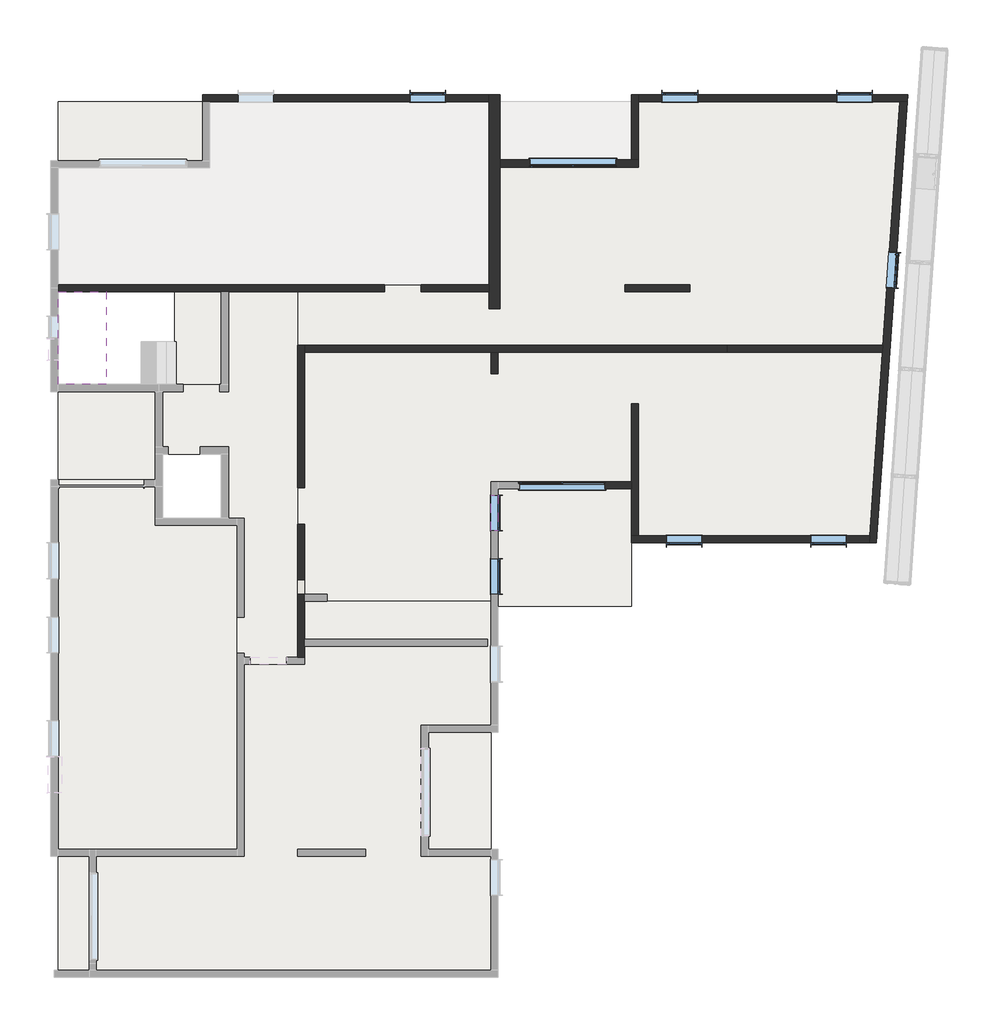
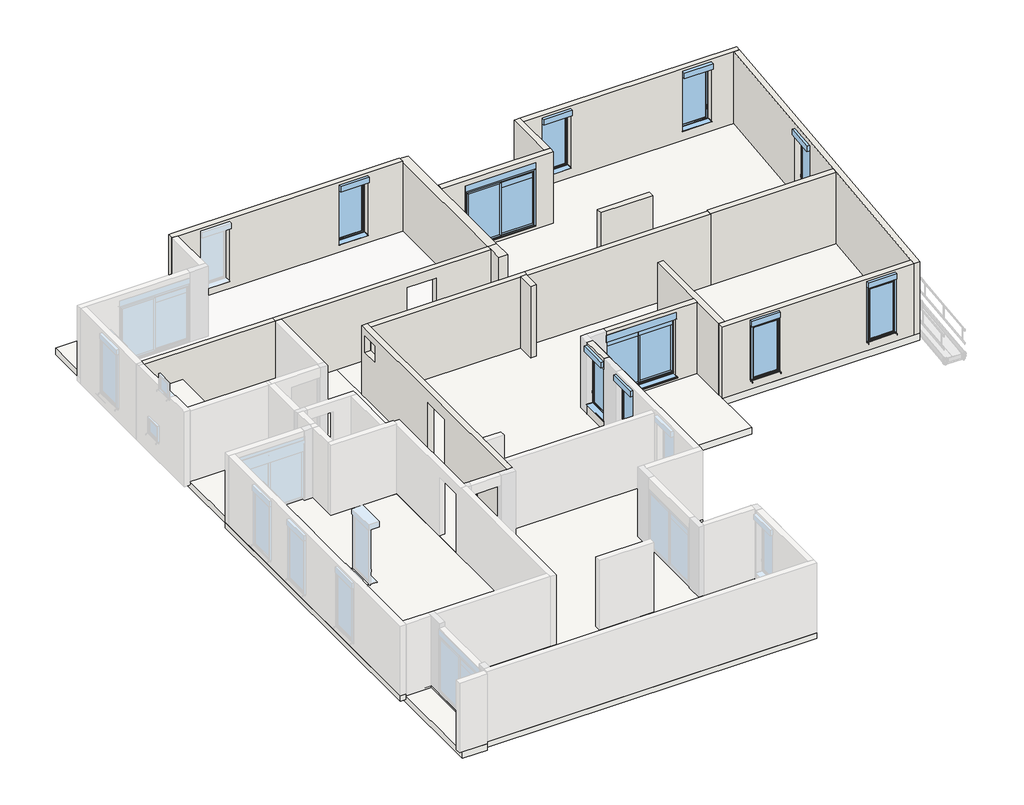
# One storey, part 2 of 3: 17 walls, 10 slabs, 10 windows.
"""IFC4 building model written with IfcOpenShell, lengths in millimetres."""

from ifc_helpers import new_model, si_unit, frame, origin, place, context, project, spatial, polyline, outline, extrude, faceted_brep, transform, mapped, element, save
from components import window_b85a0a24, window_200x100_8459d8a5, window_200x100_a15cc3b6

model = new_model("IFC4")

# Units and contexts
model_context = context("Model", 3, world=origin())
ifc_project = project(units=[si_unit("LENGTHUNIT", "METRE", prefix="MILLI")], contexts=[model_context])

# Site, building, storey
site = spatial("IfcSite", under=ifc_project)
building = spatial("IfcBuilding", under=site)
storey = spatial("IfcBuildingStorey", under=building, Name="04-Plateau 4", Elevation=6400.0)

# Slabs
placement = place(None, origin())
element("IfcSlab", 1, ObjectType="Plancher Coulé en place 20 cm", at=placement, inside=storey, context=model_context, shape_type="Brep", body=[
    faceted_brep([(-6107.0447796, -2340.1377724, 6770.0), (-6107.0447796, 8209.8622276, 6770.0), (-3487.0447796, 8209.8622276, 6770.0), (-3177.0447796, 8209.8622276, 6770.0), (-3177.0447796, 8009.8622276, 6770.0), (-3177.0447796, 7129.8622276, 6770.0), (-1072.0447796, 7129.8622276, 6770.0), (-1072.0447796, 6929.8622276, 6770.0), (-887.0447796, 6929.8622276, 6770.0), (-887.0447796, 3039.8622276, 6770.0), (1012.9552204, 3039.8622276, 6770.0), (1012.9552204, 3539.8622276, 6770.0), (1012.9552204, 3739.8622276, 6770.0), (1012.9552204, 4799.8622276, 6770.0), (6432.9552204, 4799.8622276, 6770.0), (6432.9552204, 1129.8622276, 6770.0), (4478.3552204, 1129.8622276, 6770.0), (4478.3552204, 677.5337635, 6770.0), (4478.3552204, -1770.1377724, 6770.0), (4478.3552204, -2140.1377724, 6770.0), (6233.3552204, -2140.1377724, 6770.0), (6432.9552204, -2140.1377724, 6770.0), (6432.9552204, -2440.1377724, 6770.0), (6432.9552204, -5740.1377724, 6770.0), (-5037.0447796, -5740.1377724, 6770.0), (-5037.0447796, -5540.1377724, 6770.0), (-5037.0447796, -5240.1377724, 6770.0), (-5037.0447796, -2820.1377724, 6770.0), (-5037.0447796, -2340.1377724, 6770.0), (-6107.0447796, -2340.1377724, 6970.0), (-5037.0447796, -2340.1377724, 6970.0), (-5037.0447796, -2820.1377724, 6970.0), (-5037.0447796, -5240.1377724, 6970.0), (-5037.0447796, -5540.1377724, 6970.0), (-5037.0447796, -5740.1377724, 6970.0), (6432.9552204, -5740.1377724, 6970.0), (6432.9552204, -2440.1377724, 6970.0), (6432.9552204, -2140.1377724, 6970.0), (6233.3552204, -2140.1377724, 6970.0), (4478.3552204, -2140.1377724, 6970.0), (4478.3552204, -1770.1377724, 6970.0), (4478.3552204, 649.8622276, 6970.0), (4478.3552204, 1129.8622276, 6970.0), (6432.9552204, 1129.8622276, 6970.0), (6432.9552204, 4799.8622276, 6970.0), (1012.9552204, 4799.8622276, 6970.0), (1012.9552204, 3039.8622276, 6970.0), (-887.0447796, 3039.8622276, 6970.0), (-887.0447796, 6929.8622276, 6970.0), (-1072.0447796, 6929.8622276, 6970.0), (-1072.0447796, 7129.8622276, 6970.0), (-2977.0447796, 7129.8622276, 6970.0), (-3177.0447796, 7129.8622276, 6970.0), (-3177.0447796, 8009.8622276, 6970.0), (-3177.0447796, 8109.8622276, 6970.0), (-3177.0447796, 8209.8622276, 6970.0), (-3487.0447796, 8209.8622276, 6970.0), (-6107.0447796, 8209.8622276, 6970.0), (-5037.0447796, -2340.1377724, 6900.0)], [[[0, 1, 2, 3, 4, 5, 6, 7, 8, 9, 10, 11, 12, 13, 14, 15, 16, 17, 18, 19, 20, 21, 22, 23, 24, 25, 26, 27, 28]], [[29, 30, 31, 32, 33, 34, 35, 36, 37, 38, 39, 40, 41, 42, 43, 44, 45, 46, 47, 48, 49, 50, 51, 52, 53, 54, 55, 56, 57]], [[1, 0, 29, 57]], [[3, 2, 1, 57, 56, 55]], [[5, 4, 3, 55, 54, 53, 52]], [[6, 5, 52, 51, 50]], [[7, 6, 50, 49]], [[8, 7, 49, 48]], [[9, 8, 48, 47]], [[10, 9, 47, 46]], [[13, 12, 11, 10, 46, 45]], [[14, 13, 45, 44]], [[15, 14, 44, 43]], [[16, 15, 43, 42]], [[19, 18, 17, 16, 42, 41, 40, 39]], [[21, 20, 19, 39, 38, 37]], [[23, 22, 21, 37, 36, 35]], [[24, 23, 35, 34]], [[28, 27, 26, 25, 24, 34, 33, 32, 31, 30, 58]], [[0, 28, 58, 30, 29]]]),
])
element("IfcSlab", 2, ObjectType="Plancher Coulé en place 23 cm", at=placement, inside=storey, context=model_context, shape_type="Brep", body=[
    faceted_brep([(812.9552204, 11199.8622276, 6740.0), (812.9552204, 4599.8622276, 6740.0), (1012.9552204, 4599.8622276, 6740.0), (1012.9552204, 3239.8622276, 6740.0), (1012.9552204, 3039.8622276, 6740.0), (507.9552204, 3039.8622276, 6740.0), (-512.0447796, 3039.8622276, 6740.0), (-687.0447796, 3039.8622276, 6740.0), (-887.0447796, 3039.8622276, 6740.0), (-887.0447796, 3339.8622276, 6740.0), (-887.0447796, 6929.8622276, 6740.0), (-1072.0447796, 6929.8622276, 6740.0), (-1072.0447796, 7129.8622276, 6740.0), (-1327.0447796, 7129.8622276, 6740.0), (-1327.0447796, 8929.8622276, 6740.0), (-2817.0447796, 8929.8622276, 6740.0), (-3177.0447796, 8929.8622276, 6740.0), (-3177.0447796, 9129.8622276, 6740.0), (-3177.0447796, 10879.8622276, 6740.0), (-1377.0447796, 10879.8622276, 6740.0), (-1327.0447796, 10879.8622276, 6740.0), (-1327.0447796, 13679.8622276, 6740.0), (508.9552204, 13679.8622276, 6740.0), (812.9552204, 13679.8622276, 6740.0), (812.9552204, 13479.8622276, 6740.0), (812.9552204, 11199.8622276, 6970.0), (812.9552204, 13679.8622276, 6970.0), (-1327.0447796, 13679.8622276, 6970.0), (-1327.0447796, 10879.8622276, 6970.0), (-1377.0447796, 10879.8622276, 6970.0), (-3177.0447796, 10879.8622276, 6970.0), (-3177.0447796, 9129.8622276, 6970.0), (-3177.0447796, 8929.8622276, 6970.0), (-2817.0447796, 8929.8622276, 6970.0), (-1327.0447796, 8929.8622276, 6970.0), (-1327.0447796, 7129.8622276, 6970.0), (-1072.0447796, 7129.8622276, 6970.0), (-1072.0447796, 6929.8622276, 6970.0), (-887.0447796, 6929.8622276, 6970.0), (-887.0447796, 3339.8622276, 6970.0), (-887.0447796, 3039.8622276, 6970.0), (-687.0447796, 3039.8622276, 6970.0), (-512.0447796, 3039.8622276, 6970.0), (507.9552204, 3039.8622276, 6970.0), (1012.9552204, 3039.8622276, 6970.0), (1012.9552204, 3239.8622276, 6970.0), (1012.9552204, 4599.8622276, 6970.0), (812.9552204, 4599.8622276, 6970.0)], [[[0, 1, 2, 3, 4, 5, 6, 7, 8, 9, 10, 11, 12, 13, 14, 15, 16, 17, 18, 19, 20, 21, 22, 23, 24]], [[25, 26, 27, 28, 29, 30, 31, 32, 33, 34, 35, 36, 37, 38, 39, 40, 41, 42, 43, 44, 45, 46, 47]], [[1, 0, 25, 47]], [[2, 1, 47, 46]], [[4, 3, 2, 46, 45, 44]], [[6, 5, 4, 44, 43, 42]], [[8, 7, 6, 42, 41, 40]], [[9, 8, 40, 39]], [[10, 9, 39, 38]], [[11, 10, 38, 37]], [[12, 11, 37, 36]], [[13, 12, 36, 35]], [[14, 13, 35, 34]], [[16, 15, 14, 34, 33, 32]], [[18, 17, 16, 32, 31, 30]], [[20, 19, 18, 30, 29, 28]], [[21, 20, 28, 27]], [[23, 22, 21, 27, 26]], [[0, 24, 23, 26, 25]]]),
])
element("IfcSlab", 3, ObjectType="Plancher Coulé en place 24 cm", at=placement, inside=storey, context=model_context, shape_type="Brep", body=[
    faceted_brep([(-5037.0447796, -2640.1377724, 6660.0), (-5037.0447796, -5740.1377724, 6660.0), (-5907.0447796, -5740.1377724, 6660.0), (-5907.0447796, -5540.1377724, 6660.0), (-5907.0447796, -2140.1377724, 6660.0), (-5037.0447796, -2140.1377724, 6660.0), (-5037.0447796, -2640.1377724, 6900.0), (-5037.0447796, -2140.1377724, 6900.0), (-5907.0447796, -2140.1377724, 6900.0), (-5907.0447796, -5540.1377724, 6900.0), (-5907.0447796, -5740.1377724, 6900.0), (-5037.0447796, -5740.1377724, 6900.0), (-5037.0447796, -2140.1377724, 6770.0)], [[[0, 1, 2, 3, 4, 5]], [[6, 7, 8, 9, 10, 11]], [[1, 0, 6, 11]], [[2, 1, 11, 10]], [[4, 3, 2, 10, 9, 8]], [[5, 4, 8, 7, 12]], [[0, 5, 12, 7, 6]]]),
])
element("IfcSlab", 4, ObjectType="Plancher Coulé en place 24 cm", at=placement, inside=storey, context=model_context, shape_type="Brep", body=[
    faceted_brep([(-3177.0447796, 8209.8622276, 6660.0), (-5907.0447796, 8209.8622276, 6660.0), (-5907.0447796, 10879.8622276, 6660.0), (-3177.0447796, 10879.8622276, 6660.0), (-3177.0447796, 8209.8622276, 6900.0), (-3177.0447796, 10879.8622276, 6900.0), (-5907.0447796, 10879.8622276, 6900.0), (-5907.0447796, 8209.8622276, 6900.0), (-3177.0447796, 8209.8622276, 6770.0)], [[[0, 1, 2, 3]], [[4, 5, 6, 7]], [[0, 3, 5, 4, 8]], [[1, 0, 8, 4, 7]], [[2, 1, 7, 6]], [[3, 2, 6, 5]]]),
])
element("IfcSlab", 5, ObjectType="Plancher Coulé en place 24 cm", at=placement, inside=storey, context=model_context, shape_type="SweptSolid", body=[
    extrude(outline(polyline([(6232.9552204, 759.8622276), (6232.9552204, -2140.1377724), (4478.3552204, -2140.1377724), (4478.3552204, 1129.8622276), (6232.9552204, 1129.8622276), (6232.9552204, 759.8622276)])), frame((0.0, 0.0, 6660.0), z_axis=(0.0, 0.0, 1.0), x_axis=(1.0, 0.0, 0.0)), (0.0, 0.0, 1.0), 240.0),
])
element("IfcSlab", 6, ObjectType="Plancher Coulé en place 24 cm", at=placement, inside=storey, context=model_context, shape_type="SweptSolid", body=[
    extrude(outline(polyline([(-1857.0447796, 18799.8622276), (-1857.0447796, 17149.8622276), (-5907.0447796, 17149.8622276), (-5907.0447796, 18799.8622276), (-1857.0447796, 18799.8622276)])), frame((0.0, 0.0, 6660.0), z_axis=(0.0, 0.0, 1.0), x_axis=(1.0, 0.0, 0.0)), (0.0, 0.0, 1.0), 240.0),
])
element("IfcSlab", 7, ObjectType="Plancher Coulé en place 25 cm", at=placement, inside=storey, context=model_context, shape_type="Brep", body=[
    faceted_brep([(6232.9552204, 4799.8622276, 6650.0), (812.9552204, 4799.8622276, 6650.0), (812.9552204, 11199.8622276, 6650.0), (812.9552204, 11399.8622276, 6650.0), (812.9552204, 12399.8622276, 6650.0), (812.9552204, 12599.8622276, 6650.0), (812.9552204, 13479.8622276, 6650.0), (812.9552204, 13679.8622276, 6650.0), (1008.9552204, 13679.8622276, 6650.0), (6182.9552204, 13679.8622276, 6650.0), (6182.9552204, 17174.8622276, 6650.0), (6182.9552204, 18799.8622276, 6650.0), (6482.9552204, 18799.8622276, 6650.0), (6482.9552204, 17174.8622276, 6650.0), (10172.9552204, 17174.8622276, 6650.0), (10172.9552204, 18999.8622276, 6650.0), (10272.9552204, 18999.8622276, 6650.0), (17919.8015255, 18999.8622276, 6650.0), (17041.777301, 6443.530828, 6650.0), (10173.5257924, 6443.530828, 6650.0), (10173.5257924, 7959.8622276, 6650.0), (7032.9552204, 7959.8622276, 6650.0), (6432.9552204, 7959.8622276, 6650.0), (6432.9552204, 7779.8622276, 6650.0), (6432.9552204, 6779.8622276, 6650.0), (6432.9552204, 5999.8622276, 6650.0), (6432.9552204, 4570.830828, 6650.0), (6432.9552204, 4470.830828, 6650.0), (6232.9552204, 4470.830828, 6650.0), (6232.9552204, 4799.8622276, 6900.0), (6232.9552204, 4470.830828, 6900.0), (6432.9552204, 4470.830828, 6900.0), (6432.9552204, 4570.830828, 6900.0), (6432.9552204, 5999.8622276, 6900.0), (6432.9552204, 6779.8622276, 6900.0), (6432.9552204, 7779.8622276, 6900.0), (6432.9552204, 7959.8622276, 6900.0), (7032.9552204, 7959.8622276, 6900.0), (10173.5257924, 7959.8622276, 6900.0), (10173.5257924, 7809.8622276, 6900.0), (10173.5257924, 7309.8622276, 6900.0), (10173.5257924, 6443.530828, 6900.0), (17041.777301, 6443.530828, 6900.0), (17919.8015255, 18999.8622276, 6900.0), (10272.9552204, 18999.8622276, 6900.0), (10172.9552204, 18999.8622276, 6900.0), (10172.9552204, 17174.8622276, 6900.0), (6482.9552204, 17174.8622276, 6900.0), (6482.9552204, 18799.8622276, 6900.0), (6182.9552204, 18799.8622276, 6900.0), (6182.9552204, 17174.8622276, 6900.0), (6182.9552204, 13679.8622276, 6900.0), (812.9552204, 13679.8622276, 6900.0), (812.9552204, 4799.8622276, 6900.0), (812.9552204, 13679.8622276, 6740.0)], [[[0, 1, 2, 3, 4, 5, 6, 7, 8, 9, 10, 11, 12, 13, 14, 15, 16, 17, 18, 19, 20, 21, 22, 23, 24, 25, 26, 27, 28]], [[29, 30, 31, 32, 33, 34, 35, 36, 37, 38, 39, 40, 41, 42, 43, 44, 45, 46, 47, 48, 49, 50, 51, 52, 53]], [[1, 0, 29, 53]], [[7, 6, 5, 4, 3, 2, 1, 53, 52, 54]], [[9, 8, 7, 54, 52, 51]], [[10, 9, 51, 50]], [[14, 13, 47, 46]], [[15, 14, 46, 45]], [[16, 15, 45, 44]], [[17, 16, 44, 43]], [[18, 17, 43, 42]], [[19, 18, 42, 41]], [[20, 19, 41, 40, 39, 38]], [[22, 21, 20, 38, 37, 36]], [[26, 25, 24, 23, 22, 36, 35, 34, 33, 32]], [[27, 26, 32, 31]], [[28, 27, 31, 30]], [[0, 28, 30, 29]], [[11, 10, 50, 49]], [[12, 11, 49, 48]], [[13, 12, 48, 47]]]),
])
element("IfcSlab", 8, ObjectType="Plancher Coulé en place 24 cm", at=placement, inside=storey, context=model_context, shape_type="Brep", body=[
    faceted_brep([(10172.9552204, 7959.8622276, 6660.0), (10172.9552204, 7809.8622276, 6660.0), (10172.9552204, 7309.8622276, 6660.0), (10172.9552204, 4670.830828, 6660.0), (6432.9552204, 4670.830828, 6660.0), (6432.9552204, 7959.8622276, 6660.0), (10172.9552204, 7959.8622276, 6900.0), (6432.9552204, 7959.8622276, 6900.0), (6432.9552204, 4670.830828, 6900.0), (10172.9552204, 4670.830828, 6900.0), (10172.9552204, 7309.8622276, 6900.0), (10172.9552204, 7809.8622276, 6900.0)], [[[0, 1, 2, 3, 4, 5]], [[6, 7, 8, 9, 10, 11]], [[3, 2, 1, 0, 6, 11, 10, 9]], [[4, 3, 9, 8]], [[5, 4, 8, 7]], [[0, 5, 7, 6]]]),
])
element("IfcSlab", 9, ObjectType="Plancher Coulé en place 20 cm", at=placement, inside=storey, context=model_context, shape_type="SweptSolid", body=[
    extrude(outline(polyline([(-1327.0447796, 10879.8622276), (-2628.7510491, 10879.8622276), (-2628.7510491, 13479.8622276), (-1327.0447796, 13479.8622276), (-1327.0447796, 10879.8622276)])), frame((0.0, 0.0, 6840.0), z_axis=(0.0, 0.0, 1.0), x_axis=(1.0, 0.0, 0.0)), (0.0, 0.0, 1.0), 200.0),
])
element("IfcSlab", 10, ObjectType="Plancher Coulé en place 18 cm", at=placement, inside=storey, context=model_context, shape_type="SweptSolid", body=[
    extrude(outline(polyline([(-5907.0447796, 10879.8622276), (-5907.0447796, 13479.8622276), (-4550.4151884, 13479.8622276), (-4550.4151884, 10879.8622276), (-5907.0447796, 10879.8622276)])), frame((0.0, 0.0, 8310.0), z_axis=(0.0, 0.0, 1.0), x_axis=(1.0, 0.0, 0.0)), (0.0, 0.0, 1.0), 180.0),
])

# Walls
element("IfcWall", 11, ObjectType="Voile Banché 20 cm", at=placement, inside=storey, context=model_context, shape_type="Brep", body=[
    faceted_brep([(10172.9552204, 18999.8622276, 6900.0), (10172.9552204, 17174.8622276, 6900.0), (10172.9552204, 17174.8622276, 9540.0), (10172.9552204, 18999.8622276, 9540.0), (10172.9552204, 18999.8622276, 6990.0), (10372.9552204, 18999.8622276, 6900.0), (10372.9552204, 18999.8622276, 9540.0), (10372.9552204, 18799.8622276, 9540.0), (10372.9552204, 17174.8622276, 9540.0), (10372.9552204, 17174.8622276, 6900.0), (10372.9552204, 18799.8622276, 6900.0)], [[[0, 1, 2, 3, 4]], [[5, 6, 7, 8, 9, 10]], [[1, 0, 5, 10, 9]], [[0, 4, 3, 6, 5]], [[2, 1, 9, 8]], [[3, 2, 8, 7, 6]]]),
])
element("IfcWall", 12, ObjectType="Voile Banché 30 cm", at=placement, inside=storey, context=model_context, shape_type="Brep", body=[
    faceted_brep([(6182.9552204, 18999.8622276, 6970.0), (6182.9552204, 18799.8622276, 6970.0), (6182.9552204, 13679.8622276, 6970.0), (6182.9552204, 13479.8622276, 6970.0), (6182.9552204, 12999.8622276, 6970.0), (6182.9552204, 12999.8622276, 9510.0), (6182.9552204, 13479.8622276, 9510.0), (6182.9552204, 13679.8622276, 9510.0), (6182.9552204, 18999.8622276, 9510.0), (6482.9552204, 18999.8622276, 6970.0), (6482.9552204, 18999.8622276, 6990.0), (6482.9552204, 18999.8622276, 9510.0), (6482.9552204, 13679.8622276, 9510.0), (6482.9552204, 12999.8622276, 9510.0), (6482.9552204, 12999.8622276, 6970.0), (6482.9552204, 18799.8622276, 6970.0)], [[[0, 1, 2, 3, 4, 5, 6, 7, 8]], [[9, 10, 11, 12, 13, 14, 15]], [[4, 3, 2, 1, 0, 9, 15, 14]], [[5, 4, 14, 13]], [[0, 8, 11, 10, 9]], [[8, 7, 12, 11]], [[7, 6, 5, 13, 12]]]),
])
element("IfcWall", 13, ObjectType="Voile Banché 20 cm", at=placement, inside=storey, context=model_context, shape_type="Brep", body=[
    faceted_brep([(6482.9552204, 16974.8622276, 6900.0), (10372.9552204, 16974.8622276, 6900.0), (10372.9552204, 16974.8622276, 9540.0), (6482.9552204, 16974.8622276, 9540.0), (9762.9552204, 16974.8622276, 9340.0), (9762.9552204, 16974.8622276, 9120.0), (9762.9552204, 16974.8622276, 7040.0), (9762.9552204, 16974.8622276, 7010.0), (7302.9552204, 16974.8622276, 7010.0), (7302.9552204, 16974.8622276, 7040.0), (7302.9552204, 16974.8622276, 9120.0), (7302.9552204, 16974.8622276, 9340.0), (10372.9552204, 17174.8622276, 6900.0), (10172.9552204, 17174.8622276, 6900.0), (6482.9552204, 17174.8622276, 6900.0), (6482.9552204, 17174.8622276, 9540.0), (10172.9552204, 17174.8622276, 9540.0), (10372.9552204, 17174.8622276, 9540.0), (9762.9552204, 17174.8622276, 9090.0), (9762.9552204, 17174.8622276, 9340.0), (7302.9552204, 17174.8622276, 9340.0), (7302.9552204, 17174.8622276, 9090.0), (7332.9552204, 17174.8622276, 9090.0), (7332.9552204, 17174.8622276, 6995.0695702), (7302.9552204, 17174.8622276, 6995.0695702), (7302.9552204, 17174.8622276, 6940.0), (9762.9552204, 17174.8622276, 6940.0), (9762.9552204, 17174.8622276, 6995.0695702), (9732.9552204, 17174.8622276, 6995.0695702), (9732.9552204, 17174.8622276, 9090.0), (9742.9552204, 17024.8622276, 9100.0), (9742.9552204, 17024.8622276, 7040.0), (9762.9552204, 17024.8622276, 7040.0), (9762.9552204, 17024.8622276, 9100.0), (7322.9552204, 17024.8622276, 7040.0), (7322.9552204, 17024.8622276, 9100.0), (7302.9552204, 17024.8622276, 9100.0), (7302.9552204, 17024.8622276, 7040.0), (9762.9552204, 17034.8622276, 7040.0), (9762.9552204, 17034.8622276, 7009.2643667), (9762.9552204, 17044.8622276, 6940.0), (9762.9552204, 17034.8622276, 9090.0), (9762.9552204, 17034.8622276, 9100.0), (7302.9552204, 17034.8622276, 9100.0), (7302.9552204, 17034.8622276, 9090.0), (7302.9552204, 17044.8622276, 6940.0), (7302.9552204, 17034.8622276, 7009.2643667), (7302.9552204, 17034.8622276, 7040.0), (9732.9552204, 17034.8622276, 6940.0), (7332.9552204, 17034.8622276, 6940.0), (7332.9552204, 17034.8622276, 6950.0), (9732.9552204, 17034.8622276, 6950.0), (7332.9552204, 17044.8622276, 6940.0), (7332.9552204, 17034.8622276, 9090.0), (7332.9552204, 17034.8622276, 7009.2643667), (9732.9552204, 17044.8622276, 6940.0), (9732.9552204, 17034.8622276, 7009.2643667), (9732.9552204, 17034.8622276, 9090.0), (9742.9552204, 17034.8622276, 7040.0), (9742.9552204, 17034.8622276, 9090.0), (7322.9552204, 17034.8622276, 9090.0), (7322.9552204, 17034.8622276, 7040.0), (7322.9552204, 17034.8622276, 9100.0), (9742.9552204, 17034.8622276, 9100.0)], [[[0, 1, 2, 3], [4, 5, 6, 7, 8, 9, 10, 11]], [[12, 13, 14, 15, 16, 17], [18, 19, 20, 21, 22, 23, 24, 25, 26, 27, 28, 29]], [[1, 0, 14, 13, 12]], [[0, 3, 15, 14]], [[2, 1, 12, 17]], [[15, 3, 2, 17, 16]], [[30, 31, 32, 33]], [[34, 35, 36, 37]], [[33, 32, 38, 39, 27, 26, 40, 7, 6, 5, 4, 19, 18, 41, 42]], [[37, 36, 43, 44, 21, 20, 11, 10, 9, 8, 45, 25, 24, 46, 47]], [[48, 49, 50, 51]], [[50, 49, 52]], [[22, 53, 54, 23]], [[49, 48, 55, 40, 26, 25, 45, 52]], [[48, 51, 55]], [[56, 57, 29, 28]], [[39, 38, 58, 59, 57, 56]], [[47, 46, 54, 53, 60, 61]], [[35, 34, 61, 60, 62]], [[31, 30, 63, 59, 58]], [[7, 40, 55, 51, 50, 52, 45, 8]], [[39, 56, 28, 27]], [[54, 46, 24, 23]], [[34, 37, 47, 61]], [[32, 31, 58, 38]], [[19, 4, 11, 20]], [[36, 35, 62, 43]], [[30, 33, 42, 63]], [[42, 41, 59, 63]], [[44, 43, 62, 60]], [[21, 44, 60, 53, 22]], [[41, 18, 29, 57, 59]]]),
])
element("IfcWall", 14, ObjectType="Voile Banché 20 cm", at=placement, inside=storey, context=model_context, shape_type="Brep", body=[
    faceted_brep([(10372.9552204, 18799.8622276, 6900.0), (17705.3277835, 18799.8622276, 6900.0), (17905.8161631, 18799.8622276, 6900.0), (17905.8161631, 18799.8622276, 9540.0), (17705.3277835, 18799.8622276, 9540.0), (10372.9552204, 18799.8622276, 9540.0), (16929.8015255, 18799.8622276, 9440.0), (16929.8015255, 18799.8622276, 7240.0), (15929.8015255, 18799.8622276, 7240.0), (15929.8015255, 18799.8622276, 9440.0), (12032.9552204, 18799.8622276, 9440.0), (12032.9552204, 18799.8622276, 7240.0), (11032.9552204, 18799.8622276, 7240.0), (11032.9552204, 18799.8622276, 9440.0), (17919.8015255, 18999.8622276, 6900.0), (10372.9552204, 18999.8622276, 6900.0), (10372.9552204, 18999.8622276, 9540.0), (17919.8015255, 18999.8622276, 9540.0), (16929.8015255, 18999.8622276, 7240.0), (16929.8015255, 18999.8622276, 9440.0), (15929.8015255, 18999.8622276, 9440.0), (15929.8015255, 18999.8622276, 7240.0), (12032.9552204, 18999.8622276, 7240.0), (12032.9552204, 18999.8622276, 9440.0), (11032.9552204, 18999.8622276, 9440.0), (11032.9552204, 18999.8622276, 7240.0)], [[[0, 1, 2, 3, 4, 5], [6, 7, 8, 9], [10, 11, 12, 13]], [[14, 15, 16, 17], [18, 19, 20, 21], [22, 23, 24, 25]], [[2, 1, 0, 15, 14]], [[0, 5, 16, 15]], [[5, 4, 3, 17, 16]], [[3, 2, 14, 17]], [[18, 7, 6, 19]], [[19, 6, 9, 20]], [[20, 9, 8, 21]], [[7, 18, 21, 8]], [[22, 11, 10, 23]], [[23, 10, 13, 24]], [[24, 13, 12, 25]], [[11, 22, 25, 12]]]),
])
element("IfcWall", 15, ObjectType="Voile Banché 20 cm", at=placement, inside=storey, context=model_context, shape_type="Brep", body=[
    faceted_brep([(17705.3277835, 18799.8622276, 6900.0), (17228.4269261, 11979.8622276, 6900.0), (17214.4415637, 11779.8622276, 6900.0), (16855.2742838, 6643.530828, 6900.0), (16841.2889214, 6443.530828, 6900.0), (16841.2889214, 6443.530828, 9540.0), (16855.2742838, 6643.530828, 9540.0), (17214.4415637, 11779.8622276, 9540.0), (17228.4269261, 11979.8622276, 9540.0), (17705.3277835, 18799.8622276, 9540.0), (17411.2675368, 14594.6047797, 7170.0), (17411.2675368, 14594.6047797, 9370.0), (17341.511063, 13597.0407295, 9370.0), (17341.511063, 13597.0407295, 7170.0), (17041.777301, 6443.530828, 6900.0), (17905.8161631, 18799.8622276, 6900.0), (17905.8161631, 18799.8622276, 9540.0), (17041.777301, 6443.530828, 9540.0), (17610.7803468, 14580.653485, 9370.0), (17610.7803468, 14580.653485, 7170.0), (17541.0238731, 13583.0894347, 7170.0), (17541.0238731, 13583.0894347, 9370.0)], [[[0, 1, 2, 3, 4, 5, 6, 7, 8, 9], [10, 11, 12, 13]], [[14, 15, 16, 17], [18, 19, 20, 21]], [[4, 3, 2, 1, 0, 15, 14]], [[5, 4, 14, 17]], [[0, 9, 16, 15]], [[9, 8, 7, 6, 5, 17, 16]], [[10, 19, 18, 11]], [[12, 21, 20, 13]], [[19, 10, 13, 20]], [[21, 12, 11, 18]]]),
])
element("IfcWall", 16, ObjectType="Voile Banché 20 cm", at=placement, inside=storey, context=model_context, shape_type="Brep", body=[
    faceted_brep([(16855.2742838, 6643.530828, 6900.0), (10373.5257924, 6643.530828, 6900.0), (10173.5257924, 6643.530828, 6900.0), (10173.5257924, 6643.530828, 9540.0), (10373.5257924, 6643.530828, 9540.0), (16855.2742838, 6643.530828, 9540.0), (12153.5257924, 6643.530828, 7240.0), (12153.5257924, 6643.530828, 9440.0), (11153.5257924, 6643.530828, 9440.0), (11153.5257924, 6643.530828, 7240.0), (16203.5257924, 6643.530828, 7240.0), (16203.5257924, 6643.530828, 9440.0), (15203.5257924, 6643.530828, 9440.0), (15203.5257924, 6643.530828, 7240.0), (10173.5257924, 6443.530828, 6900.0), (16841.2889214, 6443.530828, 6900.0), (16841.2889214, 6443.530828, 9540.0), (10173.5257924, 6443.530828, 9540.0), (10173.5257924, 6443.530828, 6990.0), (12153.5257924, 6443.530828, 9440.0), (12153.5257924, 6443.530828, 7240.0), (11153.5257924, 6443.530828, 7240.0), (11153.5257924, 6443.530828, 9440.0), (16203.5257924, 6443.530828, 9440.0), (16203.5257924, 6443.530828, 7240.0), (15203.5257924, 6443.530828, 7240.0), (15203.5257924, 6443.530828, 9440.0)], [[[0, 1, 2, 3, 4, 5], [6, 7, 8, 9], [10, 11, 12, 13]], [[14, 15, 16, 17, 18], [19, 20, 21, 22], [23, 24, 25, 26]], [[2, 1, 0, 15, 14]], [[0, 5, 16, 15]], [[3, 2, 14, 18, 17]], [[5, 4, 3, 17, 16]], [[6, 20, 19, 7]], [[7, 19, 22, 8]], [[8, 22, 21, 9]], [[20, 6, 9, 21]], [[10, 24, 23, 11]], [[12, 26, 25, 13]], [[24, 10, 13, 25]], [[26, 12, 11, 23]]]),
])
element("IfcWall", 17, ObjectType="Voile Banché 20 cm", at=placement, inside=storey, context=model_context, shape_type="Brep", body=[
    faceted_brep([(10373.5257924, 6643.530828, 6900.0), (10373.5257924, 10330.9965278, 6900.0), (10373.5257924, 10343.530828, 6900.0), (10373.5257924, 10343.530828, 9540.0), (10373.5257924, 6643.530828, 9540.0), (10173.5257924, 6643.530828, 6900.0), (10173.5257924, 6643.530828, 9540.0), (10173.5257924, 7309.8622276, 9540.0), (10173.5257924, 7809.8622276, 9540.0), (10173.5257924, 7959.8622276, 9540.0), (10173.5257924, 8159.8622276, 9540.0), (10173.5257924, 10343.530828, 9540.0), (10173.5257924, 10343.530828, 6900.0), (10173.5257924, 10330.9965278, 6900.0), (10173.5257924, 8159.8622276, 6900.0), (10173.5257924, 7959.8622276, 6900.0)], [[[0, 1, 2, 3, 4]], [[5, 6, 7, 8, 9, 10, 11, 12, 13, 14, 15]], [[2, 1, 0, 5, 15, 14, 13, 12]], [[3, 2, 12, 11]], [[0, 4, 6, 5]], [[4, 3, 11, 10, 9, 8, 7, 6]]]),
])
element("IfcWall", 18, ObjectType="Voile Banché 20 cm", at=placement, inside=storey, context=model_context, shape_type="Brep", body=[
    faceted_brep([(1012.9552204, 11979.8622276, 6900.0), (1012.9552204, 11979.8622276, 9510.0), (1012.9552204, 11779.8622276, 9510.0), (1012.9552204, 3239.8622276, 9510.0), (1012.9552204, 3239.8622276, 6970.0), (1012.9552204, 3239.8622276, 6900.0), (1012.9552204, 6959.8622276, 6900.0), (1012.9552204, 6959.8622276, 9090.0), (1012.9552204, 7979.8622276, 9090.0), (1012.9552204, 7979.8622276, 6900.0), (1012.9552204, 11779.8622276, 6900.0), (1012.9552204, 11179.8622276, 9240.0), (1012.9552204, 11779.8622276, 9240.0), (1012.9552204, 11779.8622276, 8640.0), (1012.9552204, 11179.8622276, 8640.0), (1012.9552204, 4999.8622276, 7770.0), (1012.9552204, 5399.8622276, 7770.0), (1012.9552204, 5399.8622276, 7170.0), (1012.9552204, 4999.8622276, 7170.0), (812.9552204, 11979.8622276, 9510.0), (812.9552204, 11979.8622276, 6900.0), (812.9552204, 7979.8622276, 6900.0), (812.9552204, 7979.8622276, 9090.0), (812.9552204, 6959.8622276, 9090.0), (812.9552204, 6959.8622276, 6900.0), (812.9552204, 3239.8622276, 6900.0), (812.9552204, 3239.8622276, 9510.0), (812.9552204, 11779.8622276, 9240.0), (812.9552204, 11179.8622276, 9240.0), (812.9552204, 11179.8622276, 8640.0), (812.9552204, 11779.8622276, 8640.0), (812.9552204, 5399.8622276, 7770.0), (812.9552204, 4999.8622276, 7770.0), (812.9552204, 4999.8622276, 7170.0), (812.9552204, 5399.8622276, 7170.0)], [[[0, 1, 2, 3, 4, 5, 6, 7, 8, 9, 10], [11, 12, 13, 14], [15, 16, 17, 18]], [[19, 20, 21, 22, 23, 24, 25, 26], [27, 28, 29, 30], [31, 32, 33, 34]], [[5, 25, 24, 6]], [[20, 0, 10, 9, 21]], [[5, 4, 3, 26, 25]], [[11, 28, 27, 12]], [[13, 30, 29, 14]], [[28, 11, 14, 29]], [[12, 27, 30, 13]], [[7, 23, 22, 8]], [[23, 7, 6, 24]], [[8, 22, 21, 9]], [[15, 32, 31, 16]], [[17, 34, 33, 18]], [[16, 31, 34, 17]], [[32, 15, 18, 33]], [[1, 0, 20, 19]], [[3, 2, 1, 19, 26]]]),
])
element("IfcWall", 19, ObjectType="Voile Banché 20 cm", at=placement, inside=storey, context=model_context, shape_type="Brep", body=[
    faceted_brep([(1012.9552204, 11779.8622276, 6900.0), (6182.9552204, 11779.8622276, 6900.0), (6232.9552204, 11779.8622276, 6900.0), (6432.9552204, 11779.8622276, 6900.0), (6482.9552204, 11779.8622276, 6900.0), (12453.5257924, 11779.8622276, 6900.0), (12853.5257924, 11779.8622276, 6900.0), (12853.5257924, 11779.8622276, 9510.0), (6482.9552204, 11779.8622276, 9510.0), (6232.9552204, 11779.8622276, 9510.0), (1012.9552204, 11779.8622276, 9510.0), (1012.9552204, 11779.8622276, 9240.0), (1012.9552204, 11779.8622276, 8640.0), (1012.9552204, 11979.8622276, 6900.0), (1012.9552204, 11979.8622276, 9510.0), (6482.9552204, 11979.8622276, 9510.0), (12853.5257924, 11979.8622276, 9510.0), (12853.5257924, 11979.8622276, 6900.0), (10373.5257924, 11979.8622276, 6900.0), (10173.5257924, 11979.8622276, 6900.0)], [[[0, 1, 2, 3, 4, 5, 6, 7, 8, 9, 10, 11, 12]], [[13, 14, 15, 16, 17, 18, 19]], [[6, 5, 4, 3, 2, 1, 0, 13, 19, 18, 17]], [[7, 6, 17, 16]], [[0, 12, 11, 10, 14, 13]], [[8, 7, 16, 15]], [[10, 9, 8, 15, 14]]]),
])
element("IfcWall", 20, ObjectType="Voile Banché 20 cm", at=placement, inside=storey, context=model_context, shape_type="Brep", body=[
    faceted_brep([(6232.9552204, 11779.8622276, 6900.0), (6232.9552204, 11179.8622276, 6900.0), (6232.9552204, 11179.8622276, 9440.0), (6232.9552204, 11179.8622276, 9540.0), (6232.9552204, 11779.8622276, 9540.0), (6432.9552204, 11779.8622276, 6900.0), (6432.9552204, 11779.8622276, 9540.0), (6432.9552204, 11179.8622276, 9540.0), (6432.9552204, 11179.8622276, 9440.0), (6432.9552204, 11179.8622276, 6900.0)], [[[0, 1, 2, 3, 4]], [[5, 6, 7, 8, 9]], [[1, 0, 5, 9]], [[3, 2, 1, 9, 8, 7]], [[0, 4, 6, 5]], [[4, 3, 7, 6]]]),
])
element("IfcWall", 21, ObjectType="Voile Banché 20 cm", at=placement, inside=storey, context=model_context, shape_type="SweptSolid", body=[
    extrude(outline(polyline([(6432.9552204, 7779.8622276), (6432.9552204, 6779.8622276), (6232.9552204, 6779.8622276), (6232.9552204, 7779.8622276), (6432.9552204, 7779.8622276)])), frame((0.0, 0.0, 9140.0), z_axis=(0.0, 0.0, 1.0), x_axis=(1.0, 0.0, 0.0)), (0.0, 0.0, 1.0), 400.0),
])
element("IfcWall", 22, ObjectType="Acrotère BA 20 cm", at=placement, inside=storey, context=model_context, shape_type="Brep", body=[
    faceted_brep([(6232.9552204, 7779.8622276, 6740.0), (6232.9552204, 6779.8622276, 6740.0), (6232.9552204, 6779.8622276, 6900.0), (6232.9552204, 6779.8622276, 7240.0), (6232.9552204, 7779.8622276, 7240.0), (6232.9552204, 7779.8622276, 6900.0), (6432.9552204, 6779.8622276, 6740.0), (6432.9552204, 7779.8622276, 6740.0), (6432.9552204, 7779.8622276, 6900.0), (6432.9552204, 7779.8622276, 7240.0), (6432.9552204, 6779.8622276, 7240.0), (6432.9552204, 6779.8622276, 6900.0)], [[[0, 1, 2, 3, 4, 5]], [[6, 7, 8, 9, 10, 11]], [[1, 0, 7, 6]], [[1, 6, 11, 10, 3, 2]], [[7, 0, 5, 4, 9, 8]], [[4, 3, 10, 9]]]),
])
element("IfcWall", 23, ObjectType="Poutre voile 20cm", at=placement, inside=storey, context=model_context, shape_type="Brep", body=[
    faceted_brep([(-1857.0447796, 18799.8622276, 6970.0), (-1657.0447796, 18799.8622276, 6970.0), (6182.9552204, 18799.8622276, 6970.0), (6182.9552204, 18799.8622276, 9540.0), (-1657.0447796, 18799.8622276, 9540.0), (-1857.0447796, 18799.8622276, 9540.0), (-1857.0447796, 18799.8622276, 9360.0), (-1857.0447796, 18799.8622276, 7640.0), (4962.9552204, 18799.8622276, 9440.0), (4962.9552204, 18799.8622276, 7240.0), (3962.9552204, 18799.8622276, 7240.0), (3962.9552204, 18799.8622276, 9440.0), (142.9552204, 18799.8622276, 9440.0), (142.9552204, 18799.8622276, 7240.0), (-857.0447796, 18799.8622276, 7240.0), (-857.0447796, 18799.8622276, 9440.0), (6182.9552204, 18999.8622276, 6970.0), (-1857.0447796, 18999.8622276, 6970.0), (-1857.0447796, 18999.8622276, 7640.0), (-1857.0447796, 18999.8622276, 9360.0), (-1857.0447796, 18999.8622276, 9540.0), (-1757.0447796, 18999.8622276, 9540.0), (6182.9552204, 18999.8622276, 9540.0), (6182.9552204, 18999.8622276, 9510.0), (4962.9552204, 18999.8622276, 7240.0), (4962.9552204, 18999.8622276, 9440.0), (3962.9552204, 18999.8622276, 9440.0), (3962.9552204, 18999.8622276, 7240.0), (142.9552204, 18999.8622276, 7240.0), (142.9552204, 18999.8622276, 9440.0), (-857.0447796, 18999.8622276, 9440.0), (-857.0447796, 18999.8622276, 7240.0)], [[[0, 1, 2, 3, 4, 5, 6, 7], [8, 9, 10, 11], [12, 13, 14, 15]], [[16, 17, 18, 19, 20, 21, 22, 23], [24, 25, 26, 27], [28, 29, 30, 31]], [[2, 1, 0, 17, 16]], [[3, 2, 16, 23, 22]], [[0, 7, 6, 5, 20, 19, 18, 17]], [[20, 5, 4, 3, 22, 21]], [[24, 9, 8, 25]], [[25, 8, 11, 26]], [[26, 11, 10, 27]], [[9, 24, 27, 10]], [[28, 13, 12, 29]], [[29, 12, 15, 30]], [[30, 15, 14, 31]], [[13, 28, 31, 14]]]),
])
element("IfcWall", 24, ObjectType="Poutre voile 20cm", at=placement, inside=storey, context=model_context, shape_type="Brep", body=[
    faceted_brep([(6182.9552204, 13479.8622276, 6970.0), (6182.9552204, 13479.8622276, 9510.0), (-1127.0447796, 13479.8622276, 9510.0), (-1327.0447796, 13479.8622276, 9510.0), (-5907.0447796, 13479.8622276, 9510.0), (-5907.0447796, 13479.8622276, 6970.0), (-2357.0447796, 13479.8622276, 6970.0), (-1657.0447796, 13479.8622276, 6970.0), (-1327.0447796, 13479.8622276, 6970.0), (-1127.0447796, 13479.8622276, 6970.0), (3252.9552204, 13479.8622276, 6970.0), (3252.9552204, 13479.8622276, 9140.0), (4272.9552204, 13479.8622276, 9140.0), (4272.9552204, 13479.8622276, 6970.0), (6182.9552204, 13679.8622276, 9510.0), (6182.9552204, 13679.8622276, 6970.0), (4272.9552204, 13679.8622276, 6970.0), (4272.9552204, 13679.8622276, 9140.0), (3252.9552204, 13679.8622276, 9140.0), (3252.9552204, 13679.8622276, 6970.0), (-5907.0447796, 13679.8622276, 6970.0), (-5907.0447796, 13679.8622276, 9510.0), (-1327.0447796, 13679.8622276, 9510.0)], [[[0, 1, 2, 3, 4, 5, 6, 7, 8, 9, 10, 11, 12, 13]], [[14, 15, 16, 17, 18, 19, 20, 21, 22]], [[5, 20, 19, 10, 9, 8, 7, 6]], [[15, 0, 13, 16]], [[5, 4, 21, 20]], [[11, 18, 17, 12]], [[18, 11, 10, 19]], [[12, 17, 16, 13]], [[1, 0, 15, 14]], [[4, 3, 22, 21]], [[3, 2, 1, 14, 22]]]),
])
element("IfcWall", 25, ObjectType="Poutre voile 20cm", at=placement, inside=storey, context=model_context, shape_type="SweptSolid", body=[
    extrude(outline(polyline([(11807.9552204, 13479.8622276), (9997.9552204, 13479.8622276), (9997.9552204, 13679.8622276), (11807.9552204, 13679.8622276), (11807.9552204, 13479.8622276)])), frame((0.0, 0.0, 6900.0), z_axis=(0.0, 0.0, 1.0), x_axis=(1.0, 0.0, 0.0)), (0.0, 0.0, 1.0), 2640.0),
])
element("IfcWall", 26, ObjectType="Poutre voile 20cm", at=placement, inside=storey, context=model_context, shape_type="Brep", body=[
    faceted_brep([(10173.5257924, 8159.8622276, 6900.0), (7033.5257924, 8159.8622276, 6900.0), (7033.5257924, 8159.8622276, 7080.0), (9463.5257924, 8159.8622276, 7080.0), (9463.5257924, 8159.8622276, 7110.0), (9463.5257924, 8159.8622276, 9190.0), (9463.5257924, 8159.8622276, 9410.0), (7033.5257924, 8159.8622276, 9410.0), (7033.5257924, 8159.8622276, 9540.0), (10173.5257924, 8159.8622276, 9540.0), (7033.5257924, 7959.8622276, 6900.0), (10173.5257924, 7959.8622276, 6900.0), (10173.5257924, 7959.8622276, 9540.0), (10172.9552204, 7959.8622276, 9540.0), (7033.5257924, 7959.8622276, 9540.0), (7033.5257924, 7959.8622276, 9410.0), (9463.5257924, 7959.8622276, 9410.0), (9463.5257924, 7959.8622276, 9160.0), (9433.5257924, 7959.8622276, 9160.0), (9433.5257924, 7959.8622276, 7065.0695702), (9463.5257924, 7959.8622276, 7065.0695702), (9463.5257924, 7959.8622276, 7010.0), (7033.5257924, 7959.8622276, 7010.0), (7033.5257924, 8089.8622276, 7010.0), (7033.5257924, 8099.8622276, 7010.0), (7033.5257924, 8099.8622276, 7020.0), (9443.5257924, 8109.8622276, 7110.0), (9443.5257924, 8109.8622276, 9170.0), (9463.5257924, 8109.8622276, 9170.0), (9463.5257924, 8109.8622276, 7110.0), (9463.5257924, 8099.8622276, 9170.0), (9463.5257924, 8099.8622276, 9160.0), (9463.5257924, 8089.8622276, 7010.0), (9463.5257924, 8099.8622276, 7079.2643667), (9463.5257924, 8099.8622276, 7110.0), (9433.5257924, 8099.8622276, 7010.0), (9433.5257924, 8099.8622276, 7020.0), (9433.5257924, 8089.8622276, 7010.0), (9433.5257924, 8099.8622276, 9160.0), (9433.5257924, 8099.8622276, 7079.2643667), (9443.5257924, 8099.8622276, 9160.0), (9443.5257924, 8099.8622276, 7110.0), (9443.5257924, 8099.8622276, 9170.0)], [[[0, 1, 2, 3, 4, 5, 6, 7, 8, 9]], [[10, 11, 12, 13, 14, 15, 16, 17, 18, 19, 20, 21, 22]], [[1, 0, 11, 10]], [[1, 10, 22, 23, 24, 25, 2]], [[14, 8, 7, 15]], [[0, 9, 12, 11]], [[12, 9, 8, 14, 13]], [[26, 27, 28, 29]], [[29, 28, 30, 31, 17, 16, 6, 5, 4, 3, 32, 21, 20, 33, 34]], [[24, 35, 36, 25]], [[36, 35, 37]], [[18, 38, 39, 19]], [[35, 24, 23, 22, 21, 32, 37]], [[34, 33, 39, 38, 40, 41]], [[27, 26, 41, 40, 42]], [[32, 3, 2, 25, 36, 37]], [[39, 33, 20, 19]], [[26, 29, 34, 41]], [[6, 16, 15, 7]], [[28, 27, 42, 30]], [[31, 30, 42, 40]], [[17, 31, 40, 38, 18]]]),
])
element("IfcWall", 27, ObjectType="Poutre voile 20cm", at=placement, inside=storey, context=model_context, shape_type="Brep", body=[
    faceted_brep([(12853.5257924, 11779.8622276, 6900.0), (17214.4415637, 11779.8622276, 6900.0), (17214.4415637, 11779.8622276, 9540.0), (12853.5257924, 11779.8622276, 9540.0), (12853.5257924, 11779.8622276, 9510.0), (17228.4269261, 11979.8622276, 6900.0), (12853.5257924, 11979.8622276, 6900.0), (12853.5257924, 11979.8622276, 9510.0), (12853.5257924, 11979.8622276, 9540.0), (17228.4269261, 11979.8622276, 9540.0)], [[[0, 1, 2, 3, 4]], [[5, 6, 7, 8, 9]], [[1, 0, 6, 5]], [[0, 4, 3, 8, 7, 6]], [[2, 1, 5, 9]], [[3, 2, 9, 8]]]),
])

# Windows
window_shape = window_b85a0a24(model_context)
element("IfcWindow", 28, ObjectType="Rect 2 couliss+CVR+App : M03 Appuis 7 cm", at=placement, inside=storey, context=model_context, shape_type="MappedRepresentation", body=[
    mapped(window_shape, transform((8233.5257924, 8059.8622276, 7110.0), x_axis=(-1.0, 0.0, 0.0), y_axis=(0.0, -1.0, 0.0), z_axis=(0.0, 0.0, 1.0))),
])
element("IfcWindow", 29, ObjectType="Rect 2 couliss+CVR+App : M03 Appuis 7 cm", at=placement, inside=storey, context=model_context, shape_type="MappedRepresentation", body=[
    mapped(window_shape, transform((8532.9552204, 17074.8622276, 7040.0), x_axis=(1.0, 0.0, 0.0), y_axis=(0.0, 1.0, 0.0), z_axis=(0.0, 0.0, 1.0))),
])
window_200x100_shape = window_200x100_8459d8a5(model_context)
element("IfcWindow", 30, ObjectType="Tunnel 1V+VR+ Voile : 200x100", at=placement, inside=storey, context=model_context, shape_type="MappedRepresentation", body=[
    mapped(window_200x100_shape, transform((17476.1457049, 14088.8471072, 6370.0), x_axis=(-0.06975647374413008, -0.997564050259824, 0.0), y_axis=(0.997564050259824, -0.06975647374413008, 0.0), z_axis=(0.0, 0.0, 1.0))),
])
element("IfcWindow", 31, ObjectType="Tunnel 1V+VR+ Voile : 200x100", at=placement, inside=storey, context=model_context, shape_type="MappedRepresentation", body=[
    mapped(window_200x100_shape, transform((15703.5257924, 6543.530828, 6440.0), x_axis=(-1.0, 0.0, 0.0), y_axis=(0.0, -1.0, 0.0), z_axis=(0.0, 0.0, 1.0))),
])
element("IfcWindow", 32, ObjectType="Tunnel 1V+VR+ Voile : 200x100", at=placement, inside=storey, context=model_context, shape_type="MappedRepresentation", body=[
    mapped(window_200x100_shape, transform((11653.5257924, 6543.530828, 6440.0), x_axis=(-1.0, 0.0, 0.0), y_axis=(0.0, -1.0, 0.0), z_axis=(0.0, 0.0, 1.0))),
])
window_200x100_2_shape = window_200x100_a15cc3b6(model_context)
element("IfcWindow", 33, ObjectType="Tunnel 1V+VR+ Voile : 200x100", at=placement, inside=storey, context=model_context, shape_type="MappedRepresentation", body=[
    mapped(window_200x100_2_shape, transform((11532.9552204, 18899.8622276, 6440.0), x_axis=(-1.0, 0.0, 0.0), y_axis=(0.0, -1.0, 0.0), z_axis=(0.0, 0.0, 1.0))),
])
element("IfcWindow", 34, ObjectType="Tunnel 1V+VR+ Voile : 200x100", at=placement, inside=storey, context=model_context, shape_type="MappedRepresentation", body=[
    mapped(window_200x100_2_shape, transform((16429.8015255, 18899.8622276, 6440.0), x_axis=(-1.0, 0.0, 0.0), y_axis=(0.0, -1.0, 0.0), z_axis=(0.0, 0.0, 1.0))),
])
element("IfcWindow", 35, ObjectType="Tunnel 1V+VR+ Voile : 200x100", at=placement, inside=storey, context=model_context, shape_type="MappedRepresentation", body=[
    mapped(window_200x100_2_shape, transform((4462.9552204, 18899.8622276, 6440.0), x_axis=(-1.0, 0.0, 0.0), y_axis=(0.0, -1.0, 0.0), z_axis=(0.0, 0.0, 1.0))),
])
element("IfcWindow", 36, ObjectType="Tunnel 1V+VR+ Voile : 200x100", at=placement, inside=storey, context=model_context, shape_type="MappedRepresentation", body=[
    mapped(window_200x100_shape, transform((6332.9552204, 5499.8622276, 6440.0), x_axis=(0.0, -1.0, 0.0), y_axis=(1.0, 0.0, 0.0), z_axis=(0.0, 0.0, 1.0))),
])
element("IfcWindow", 37, ObjectType="Tunnel 1V+VR+ Voile : 200x100", at=placement, inside=storey, context=model_context, shape_type="MappedRepresentation", body=[
    mapped(window_200x100_shape, transform((6332.9552204, 7279.8622276, 6440.0), x_axis=(0.0, -1.0, 0.0), y_axis=(1.0, 0.0, 0.0), z_axis=(0.0, 0.0, 1.0))),
])

save(model, "model.ifc")
